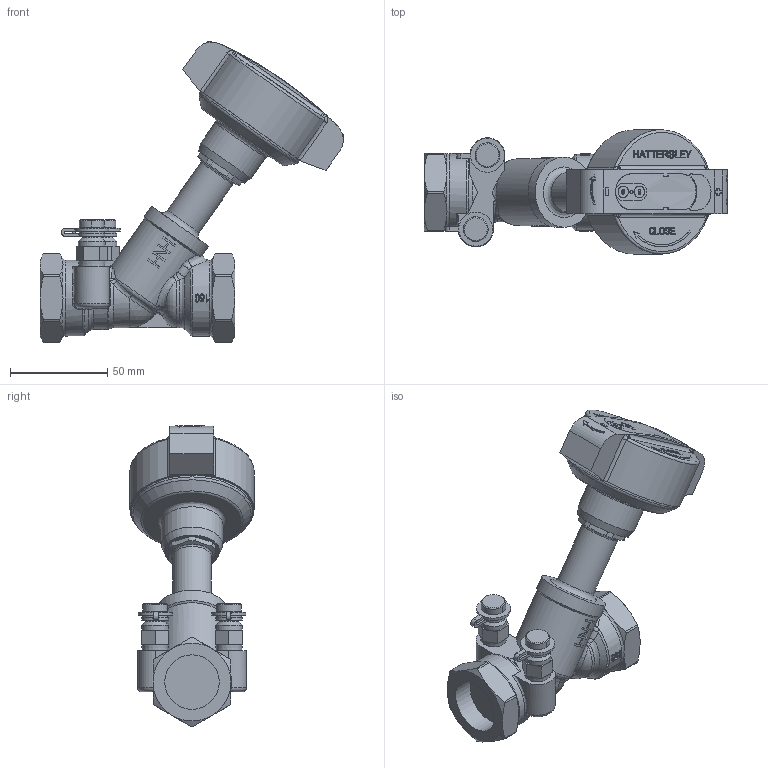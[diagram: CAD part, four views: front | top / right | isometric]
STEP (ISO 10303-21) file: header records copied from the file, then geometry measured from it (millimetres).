
FILE_DESCRIPTION((''),'2;1');
FILE_NAME('P:\Fastrack\53972_CRANE 3D\Workspace\HATTERSLEY\Fig-1732_1in\Fig-1732_1in.stp','2011-03-07T12:55:08',('btaylor'),(''),'Autodesk Inventor 2008','Autodesk Inventor 2008','');
FILE_SCHEMA(('AUTOMOTIVE_DESIGN { 1 0 10303 214 1 1 1 1 }'));
Length unit declared in the file: millimetre
Products named in the file (1): Fig-1732_1in
Bounding box: 155.97 x 63.85 x 154.55 mm (x, y, z)
Volume: 274896.2 mm3; surface area: 42753.7 mm2
Topology: 1 solids, 1 shells, 706 faces, 1824 edges, 1180 vertices
Faces by surface type: plane 330, bspline 216, cylinder 107, cone 38, torus 13, sphere 2
Full cylindrical faces by diameter (mm): 7.4 x2, 11 x2, 12.7 x2, 13.7 x2, 20 x1, 31.5 x1, 36 x1, 39 x2, 61.958 x1
Entity records: 61503 total; most frequent: CARTESIAN_POINT 45341, ORIENTED_EDGE 3534, DIRECTION 2498, EDGE_CURVE 1767, VERTEX_POINT 1159, VECTOR 844, LINE 844, AXIS2_PLACEMENT_3D 827
